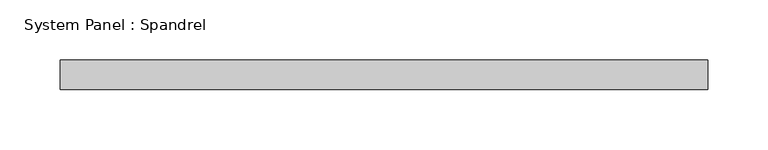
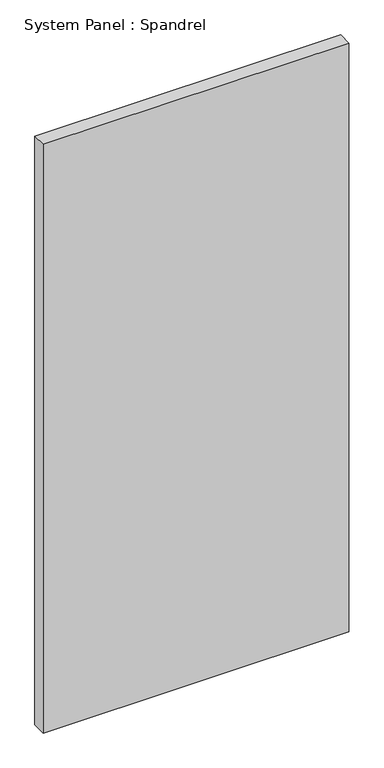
"""IFC4 building model written with IfcOpenShell, lengths in millimetres: plate geometry, System Panel : Spandrel."""

from ifc_helpers import new_model, si_unit, origin, origin_with_axes, place, context, project, spatial, polyline, outline, extrude, source, transform, mapped, element, save


def system_panel_spandrel_0b3eaa60(model_context):
    return source(origin(), model_context, "Body", "SweptSolid", [
        extrude(outline(polyline([(269.9999998, 0.0), (-269.9999998, 0.0), (-269.9999998, 25.0), (269.9999998, 25.0), (269.9999998, 0.0)])), origin_with_axes(), (0.0, 0.0, 1.0), 1100.0),
    ])


if __name__ == "__main__":
    model = new_model("IFC4")
    model_context = context("Model", 3, world=origin())
    ifc_project = project(units=[si_unit("LENGTHUNIT", "METRE", prefix="MILLI")], contexts=[model_context])
    site = spatial("IfcSite", under=ifc_project)
    building = spatial("IfcBuilding", under=site)
    placement = place(None, origin())
    system_panel_spandrel_shape = system_panel_spandrel_0b3eaa60(model_context)
    element("IfcPlate", 1, ObjectType="System Panel : Spandrel", at=placement, inside=building, context=model_context, shape_type="MappedRepresentation", body=[
        mapped(system_panel_spandrel_shape, transform((0.0, 0.0, 0.0), x_axis=(1.0, 0.0, 0.0), y_axis=(0.0, 1.0, 0.0), z_axis=(0.0, 0.0, 1.0))),
    ])
    save(model, "model.ifc")
